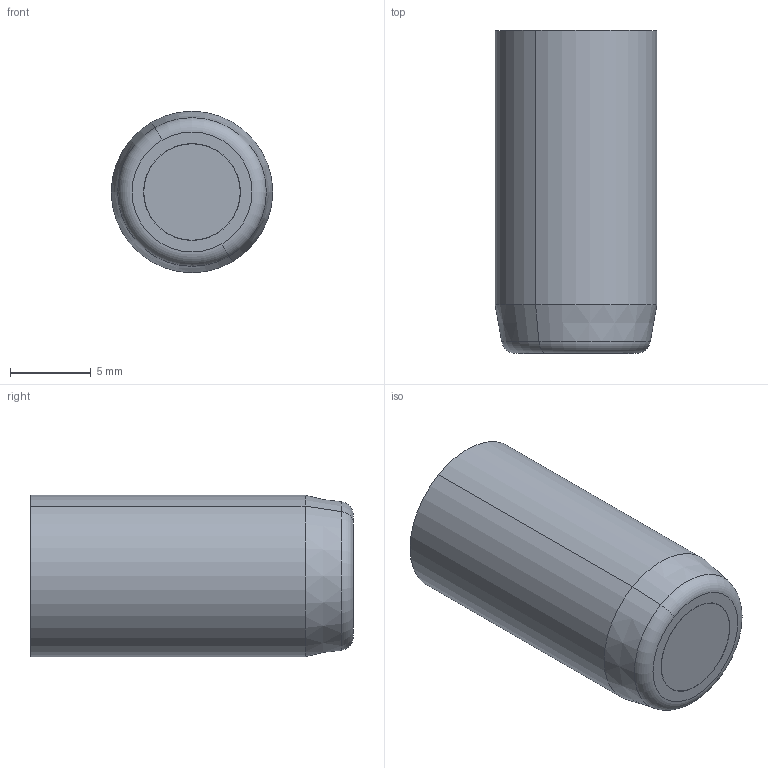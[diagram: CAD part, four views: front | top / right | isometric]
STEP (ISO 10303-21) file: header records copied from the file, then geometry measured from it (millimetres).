
FILE_DESCRIPTION (( 'STEP AP214' ), '1' );
FILE_NAME ('FA 105706-21.STEP', '2020-08-11T09:42:05', ( '' ), ( '' ), 'SwSTEP 2.0', 'SolidWorks 2019', '' );
FILE_SCHEMA (( 'AUTOMOTIVE_DESIGN' ));
Length unit declared in the file: millimetre
Products named in the file (6): DFA 105700-3; DFA 084700-2 comprimido; DFA 105706-14-1; FA 105706-21; DIA 5717SF; DFA 105700-1
Assembly tree (5 placements, depth 2):
  FA 105706-21
    DFA 105706-14-1
    DFA 105700-1
    DIA 5717SF
    DFA 105700-3
    DFA 084700-2 comprimido
Bounding box: 10 x 20 x 10 mm (x, y, z)
Volume: 1395.8 mm3; surface area: 1733.7 mm2
Topology: 5 solids, 5 shells, 286 faces, 731 edges, 474 vertices
Faces by surface type: plane 115, bspline 102, cylinder 31, cone 24, torus 12, sphere 2
Entity records: 15007 total; most frequent: CARTESIAN_POINT 8467, ORIENTED_EDGE 1458, DIRECTION 991, EDGE_CURVE 729, VERTEX_POINT 474, LINE 379, VECTOR 379, EDGE_LOOP 315
